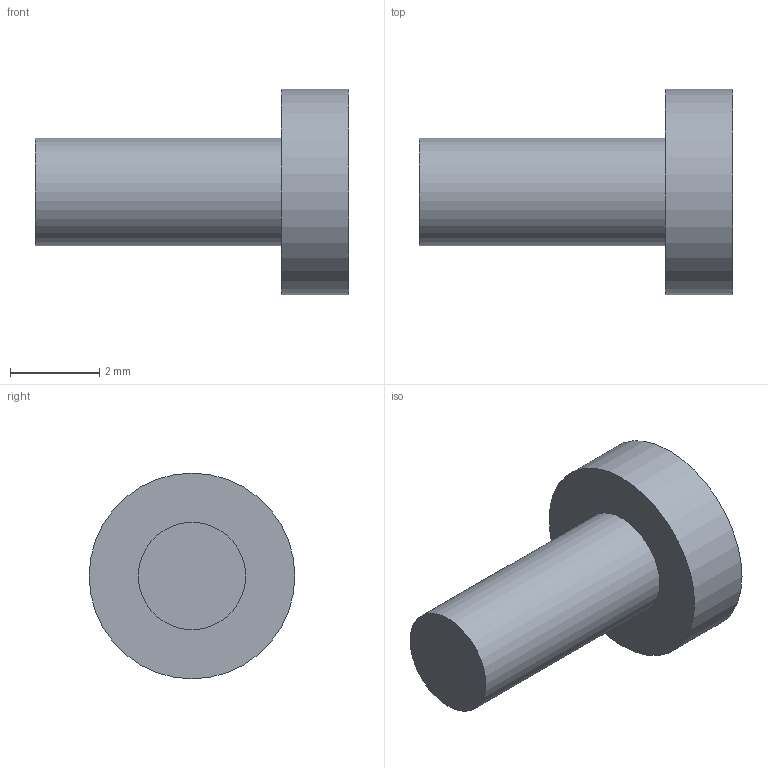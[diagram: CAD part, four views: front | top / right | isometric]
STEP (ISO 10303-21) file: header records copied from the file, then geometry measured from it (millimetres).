
FILE_DESCRIPTION(('Open CASCADE Model'),'2;1');
FILE_NAME('B3_R12_rear_support_M3_2','2026-09-28T18:17:14',('Author'),( 'Open CASCADE'),'Open CASCADE STEP processor 7.9','build123d', 'Unknown');
FILE_SCHEMA(('AUTOMOTIVE_DESIGN { 1 0 10303 214 1 1 1 1 }'));
Length unit declared in the file: millimetre
Products named in the file (1): B3_R12_rear_support_M3_2
Bounding box: 7 x 4.6 x 4.6 mm (x, y, z)
Volume: 49.8 mm3; surface area: 96.4 mm2
Topology: 1 solids, 1 shells, 5 faces, 6 edges, 4 vertices
Faces by surface type: plane 3, cylinder 2
Full cylindrical faces by diameter (mm): 2.4 x1, 4.6 x1
Entity records: 203 total; most frequent: DIRECTION 34, CARTESIAN_POINT 28, ORIENTED_EDGE 12, PCURVE 12, DEFINITIONAL_REPRESENTATION 12, AXIS2_PLACEMENT_3D 10, LINE 10, VECTOR 10
